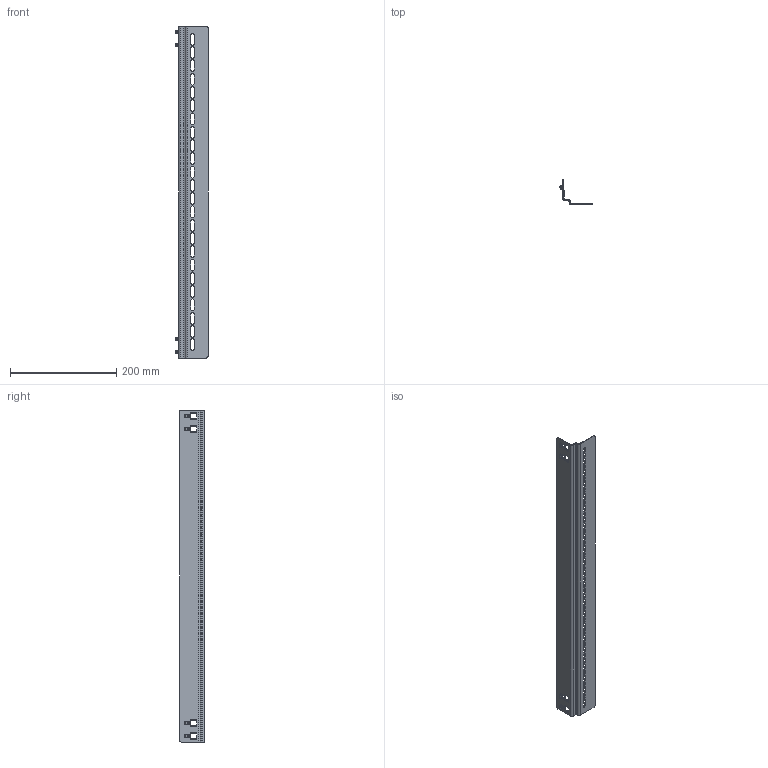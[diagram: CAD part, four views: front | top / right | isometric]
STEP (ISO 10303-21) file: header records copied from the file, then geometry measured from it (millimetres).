
FILE_DESCRIPTION (( 'STEP AP203' ), '1' );
FILE_NAME ('p2rg8.STEP', '2016-10-11T14:04:01', ( '' ), ( '' ), 'SwSTEP 2.0', 'SolidWorks 2014', '' );
FILE_SCHEMA (( 'CONFIG_CONTROL_DESIGN' ));
Length unit declared in the file: millimetre
Products named in the file (2): 89145510; p2rg8
Assembly tree (1 placements, depth 2):
  p2rg8
    89145510
Bounding box: 60.3 x 47 x 625 mm (x, y, z)
Volume: 103538.2 mm3; surface area: 118979.2 mm2
Topology: 1 solids, 1 shells, 290 faces, 776 edges, 488 vertices
Faces by surface type: plane 168, cylinder 90, bspline 32
Entity records: 10256 total; most frequent: CARTESIAN_POINT 3006, ORIENTED_EDGE 1552, DIRECTION 1328, EDGE_CURVE 776, LINE 540, VECTOR 540, VERTEX_POINT 488, AXIS2_PLACEMENT_3D 394
